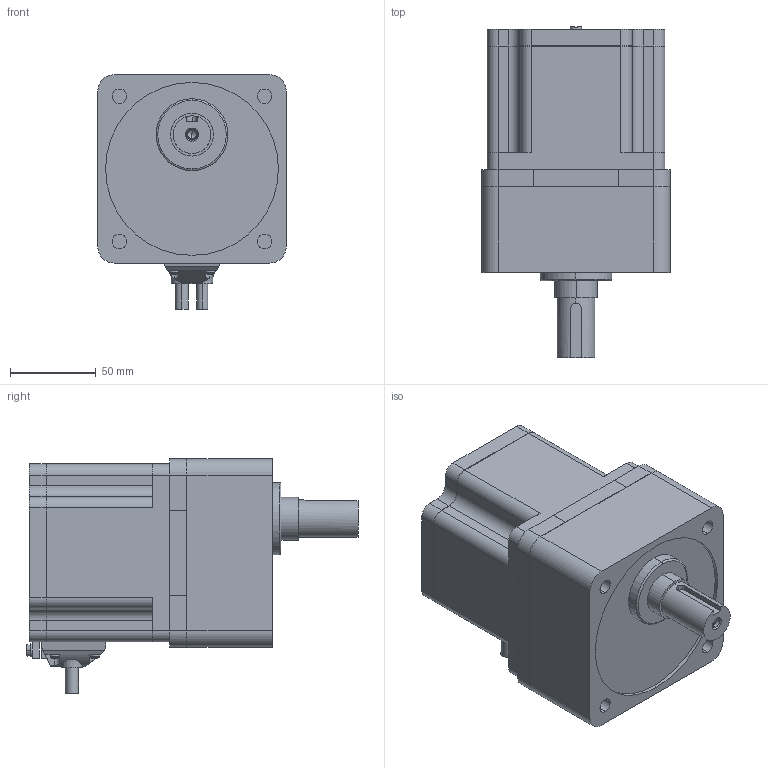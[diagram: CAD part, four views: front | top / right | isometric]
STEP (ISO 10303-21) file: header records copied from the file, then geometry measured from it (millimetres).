
FILE_DESCRIPTION(('starvars output'),'2;1');
FILE_NAME('BLF6200A-20.stp','15:04:55 2015/05/11',( 'Thomas Industrial Network Germany GmbH'),( 'Thomas Industrial Network Germany GmbH'),'unknown preprocess','ACIS' ,'unknown authorization');
FILE_SCHEMA(('AUTOMOTIVE_DESIGN_CC2 {UNKNOWN IMPLEMENTATION LEVEL}'));
Length unit declared in the file: millimetre
Products named in the file (1): PRODUCT_ID_222
Bounding box: 110 x 194 x 137 mm (x, y, z)
Volume: 1508021.2 mm3; surface area: 96123.1 mm2
Topology: 1 solids, 1 shells, 366 faces, 960 edges, 620 vertices
Faces by surface type: plane 210, cylinder 116, cone 18, torus 14, bspline 8
Entity records: 13896 total; most frequent: CARTESIAN_POINT 2398, ORIENTED_EDGE 1916, DIRECTION 1611, EDGE_CURVE 958, VERTEX_POINT 620, VECTOR 545, LINE 545, AXIS2_PLACEMENT_3D 533
